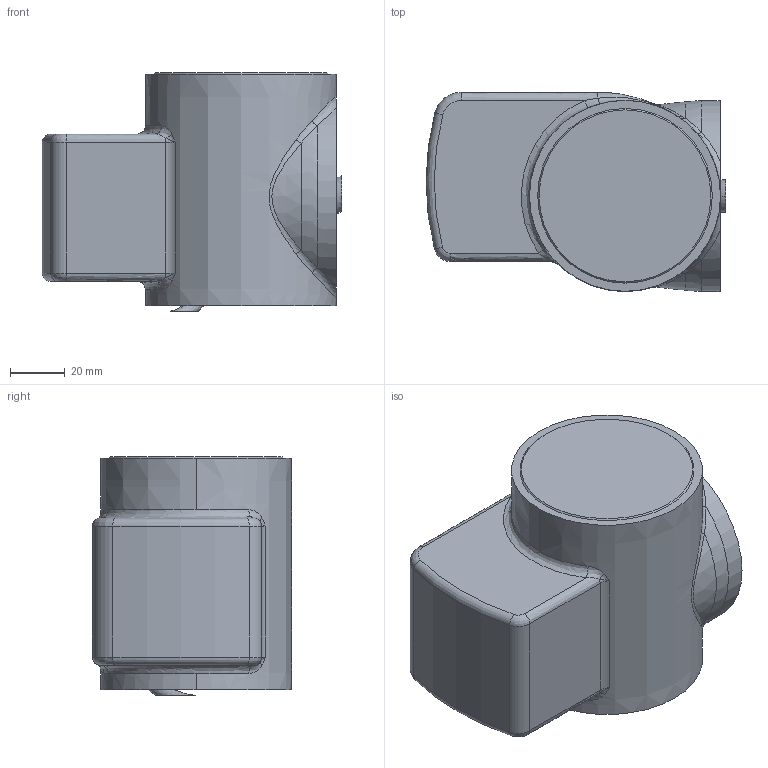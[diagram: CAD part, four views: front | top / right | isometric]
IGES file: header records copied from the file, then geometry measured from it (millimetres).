
Start section:  PTC IGES file: u_axis.igs
Global section: file name: u_axis.igs; native system: Creo Parametric by Parametric Technology Corporation; preprocessor: 2014000; author: Miyoshi_Nozomi; organization: Unknown; date: 20170420.143845; units: millimetre
Bounding box: 109.92 x 73 x 87.5 mm (x, y, z)
Volume: 492833.2 mm3; surface area: 37897.2 mm2
Topology: 1 solids, 1 shells, 75 faces, 167 edges, 97 vertices
Faces by surface type: bspline 38, revolution 37
